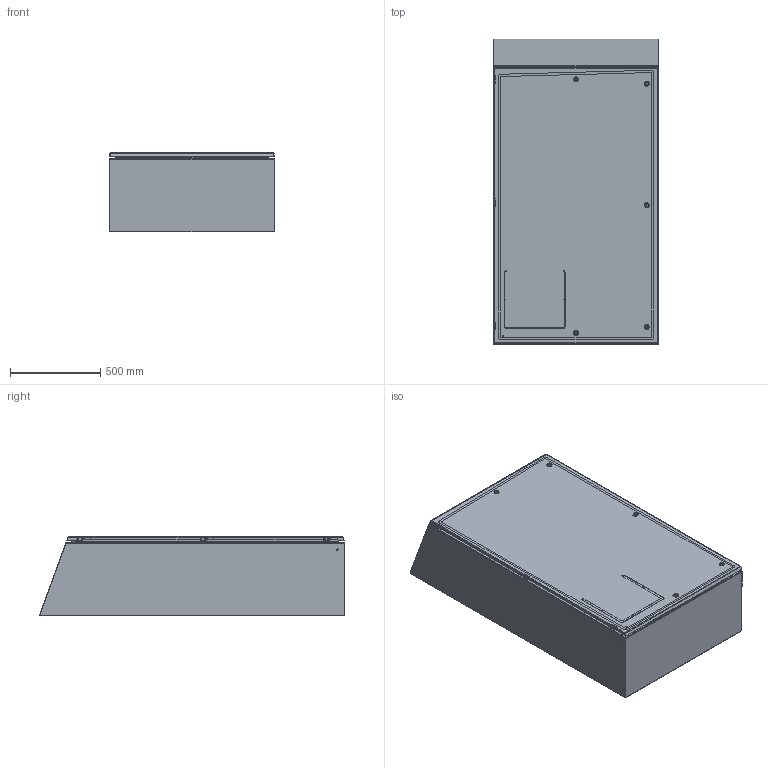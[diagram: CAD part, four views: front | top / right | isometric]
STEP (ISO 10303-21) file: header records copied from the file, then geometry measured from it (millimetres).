
FILE_DESCRIPTION (( 'STEP AP214' ), '1' );
FILE_NAME ('ws603616ss.STEP', '2023-09-08T15:27:09', ( '' ), ( '' ), 'SwSTEP 2.0', 'SolidWorks 2020', '' );
FILE_SCHEMA (( 'AUTOMOTIVE_DESIGN' ));
Length unit declared in the file: inch
Products named in the file (32): 89171475_Latched; 87570696; 89106827; 87960059_Default 14 ga; 99407583; 89216257; 31122001_31122001; 89073902; 89106683; 99407418; 99405181; 87570692; 87956873; 99414350_Pre weld; 87572421_Position 2; 87570752; 89073905; 87570754; ws603616ss; 87956867; 89209687; 89144636_96194A101; 87570756; 87751114_87751114; 87956874; 87956875; 99414350_Post weld; 23418001; 87956872; 89073908_FIP; 87570690; 22112003_AFTER WELD
Assembly tree (48 placements, depth 5):
  ws603616ss
    89073902
      87570690
      87570692
      87570754
      89106683
        87570752
        99414350_Pre weld
      89106827
        87570756
        22112003_AFTER WELD  x8
    89171475_Latched
      89073905
        87570696
        89073908_FIP
        99414350_Post weld
        87751114_87751114  x2
        89216257  x3
      23418001
      87572421_Position 2  x5
        87960059_Default 14 ga
          87956873
          87956874
          31122001_31122001
        99407583
          87956867
          99405181
          87956872
          87956875
        99407418
      89144636_96194A101  x2
    89209687  x3
Bounding box: 914.4 x 1693.11 x 442.19 mm (x, y, z)
Volume: 11100328.2 mm3; surface area: 11170718 mm2
Topology: 68 solids, 68 shells, 3324 faces, 8368 edges, 5299 vertices
Faces by surface type: plane 1691, cylinder 940, bspline 366, cone 233, torus 87, sphere 7
Entity records: 66321 total; most frequent: CARTESIAN_POINT 25644, ORIENTED_EDGE 8602, DIRECTION 7075, EDGE_CURVE 4301, LINE 2779, VECTOR 2779, VERTEX_POINT 2765, AXIS2_PLACEMENT_3D 2148
